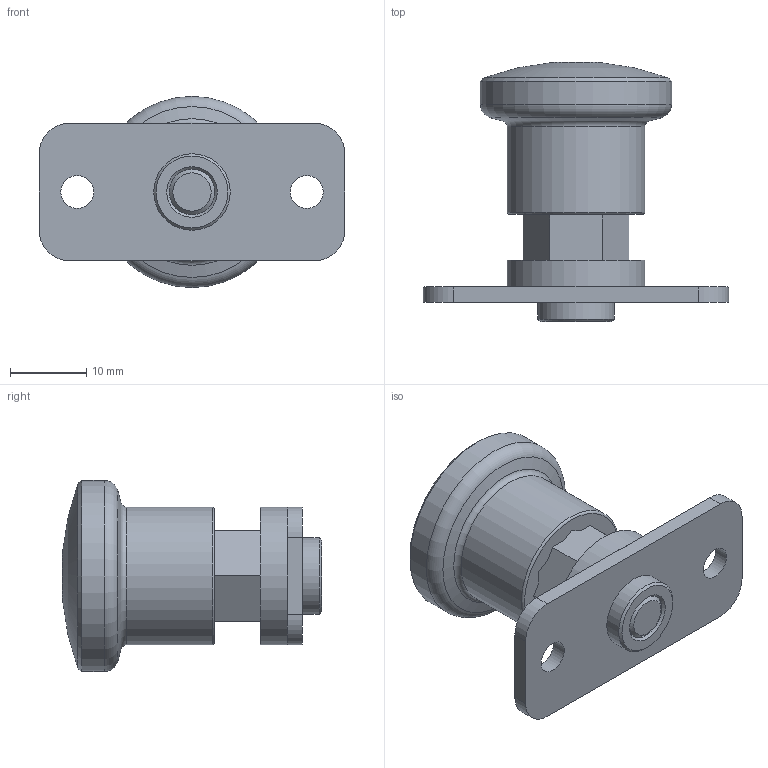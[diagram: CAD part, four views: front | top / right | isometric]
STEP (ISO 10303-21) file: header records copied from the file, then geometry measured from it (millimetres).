
FILE_DESCRIPTION( ( 'STEP AP203' ), '1' );
FILE_NAME( 'C:/Temp/Ganter_Step_05_03_2020/data/3_1/gn822_9/gn822_9_c/Stainless Steel-Mini indexing plunger GN 822.9-6-6-C (activated).stp', '2020-03-12T09:25:00', ( 'License CC BY-ND 4.0' ), ( 'CADENAS' ), ' ', 'PARTsolutions', ' ' );
FILE_SCHEMA( ( 'CONFIG_CONTROL_DESIGN' ) );
Length unit declared in the file: millimetre
Products named in the file (3): Stainless Steel-Mini indexing plunger GN 822.9-6-6-C (activated); _Stainless Steel-Mini indexing plunger GN 822.9-6-6-C (deactivated)_1; _Stainless Steel-Mini indexing plunger GN 822.9-6-6-C (deactivated)_2
Assembly tree (2 placements, depth 2):
  Stainless Steel-Mini indexing plunger GN 822.9-6-6-C (activated)
    _Stainless Steel-Mini indexing plunger GN 822.9-6-6-C (deactivated)_1
    _Stainless Steel-Mini indexing plunger GN 822.9-6-6-C (deactivated)_2
Bounding box: 40 x 33.87 x 25 mm (x, y, z)
Volume: 8549.2 mm3; surface area: 6217.2 mm2
Topology: 2 solids, 2 shells, 79 faces, 187 edges, 118 vertices
Faces by surface type: plane 46, cylinder 15, cone 14, torus 3, sphere 1
Full cylindrical faces by diameter (mm): 4 x1, 4.2 x1, 4.3 x2, 6 x2, 10 x1, 12 x1, 18 x2, 25 x1
Entity records: 2308 total; most frequent: CARTESIAN_POINT 476, DIRECTION 354, ORIENTED_EDGE 322, EDGE_CURVE 161, AXIS2_PLACEMENT_3D 129, VERTEX_POINT 115, EDGE_LOOP 114, LINE 96
